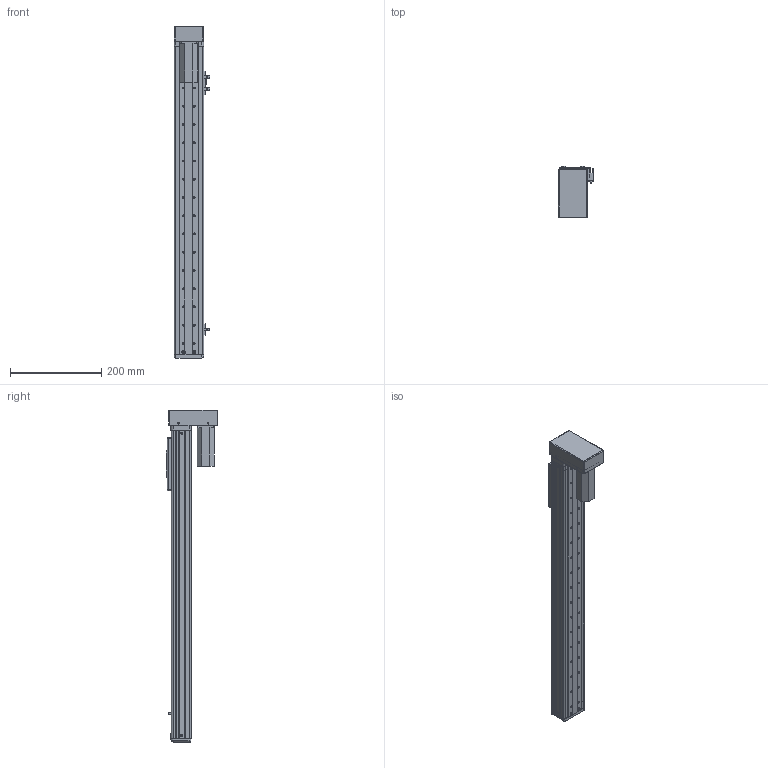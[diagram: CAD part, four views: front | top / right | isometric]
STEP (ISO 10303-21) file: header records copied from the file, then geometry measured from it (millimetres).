
FILE_DESCRIPTION (( 'STEP AP203' ), '1' );
FILE_NAME ('RY60F-L1210-300-BK.SLDASM_500.step', '2021-03-02T06:47:09', ( '盈信电脑' ), ( '东莞市道滘镇水果街19号' ), 'SwSTEP 2.0', 'SolidWorks 2012', '' );
FILE_SCHEMA (( 'CONFIG_CONTROL_DESIGN' ));
Length unit declared in the file: millimetre
Products named in the file (17): RY60F-转折电机端丝杆安装座; RY60F-狟殏萇儂欶(100W); RY60F-狟殏萇儂假蚾啣(100W PCD45 M3); RY60F-L1210-300-BK.SLDASM_500; RY50F-300-MR15W蛌殏絳寢-BK_500; 俋噤12酗38滅袉蝶; 俋噤12酗29滅袉蝶; 侂狟100W; RY60F-300-蛌殏滅鳥詩え-BK_500; RY60F-L1210-300-BK蛌殏俋褲_500; 覜茼ん672; RY60F-祥凄詩滅鳥裔; RY60F-滅鳥詩え盓殤; RY60F-嫖萇羲壽結え; RY50-60詩湍揤啣; RY60F-臏賑輸; RY60F-浮动端丝杆支撑座
Assembly tree (20 placements, depth 2):
  RY60F-L1210-300-BK.SLDASM_500
    RY60F-臏賑輸
    RY60F-浮动端丝杆支撑座
    RY60F-滅鳥詩え盓殤
    RY60F-嫖萇羲壽結え
    RY50-60詩湍揤啣  x2
    RY60F-祥凄詩滅鳥裔
    RY60F-L1210-300-BK蛌殏俋褲_500  x2
    覜茼ん672  x3
    RY60F-300-蛌殏滅鳥詩え-BK_500
    RY50F-300-MR15W蛌殏絳寢-BK_500
    俋噤12酗29滅袉蝶
    俋噤12酗38滅袉蝶
    侂狟100W
    RY60F-转折电机端丝杆安装座
    RY60F-狟殏萇儂假蚾啣(100W PCD45 M3)
    RY60F-狟殏萇儂欶(100W)
Bounding box: 78.7 x 114 x 728 mm (x, y, z)
Volume: 724803.4 mm3; surface area: 500504.5 mm2
Topology: 20 solids, 21 shells, 1069 faces, 2914 edges, 1847 vertices
Faces by surface type: cylinder 494, plane 463, cone 94, bspline 18
Entity records: 32710 total; most frequent: CARTESIAN_POINT 6314, DIRECTION 5209, ORIENTED_EDGE 4992, EDGE_CURVE 2496, AXIS2_PLACEMENT_3D 1862, VERTEX_POINT 1623, LINE 1485, VECTOR 1485
